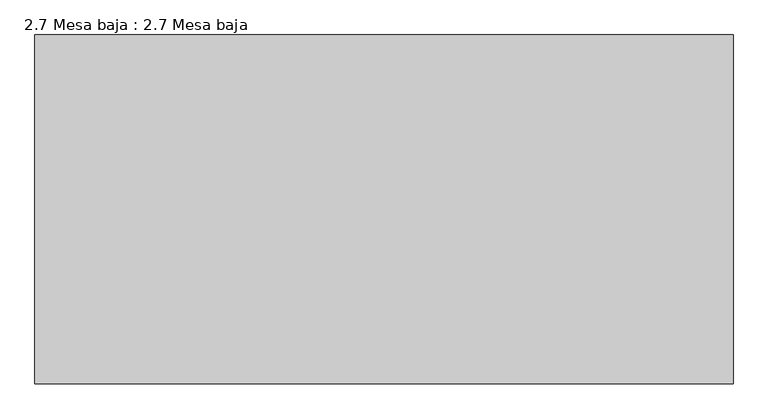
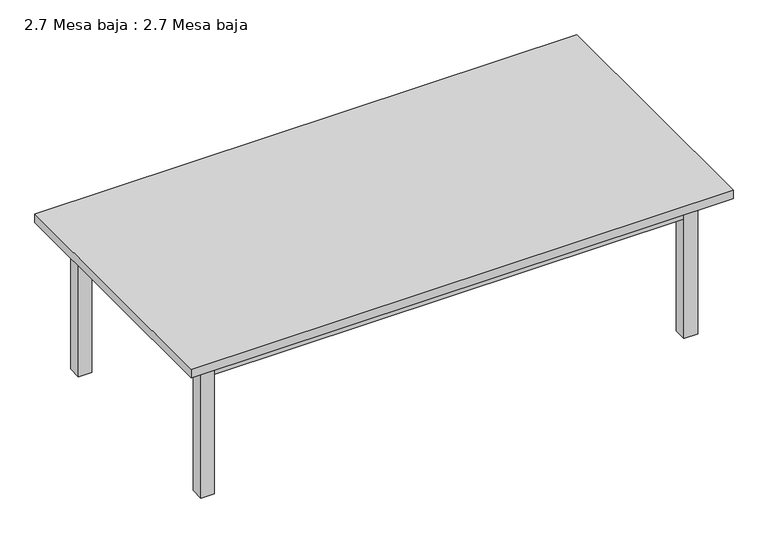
"""IFC4 building model written with IfcOpenShell, lengths in millimetres: furniture geometry, 2.7 Mesa baja : 2.7 Mesa baja."""

from ifc_helpers import new_model, si_unit, frame, origin, origin_with_axes, place, context, project, spatial, polyline, outline, extrude, source, transform, mapped, element, save


def furniture_2_7_mesa_baja_2_7_mesa_baja_48d4bc2e(model_context):
    return source(origin(), model_context, "Body", "SweptSolid", [
        extrude(outline(polyline([(-549.9923604, 219.9966875), (-549.9923604, 250.0259843), (-519.9630635, 250.0259843), (-519.9630635, 219.9966875), (-549.9923604, 219.9966875)])), origin_with_axes(), (0.0, 0.0, 1.0), 330.0000429),
        extrude(outline(polyline([(-549.9923604, -250.0641975), (-549.9923604, -219.9967238), (-519.9478643, -219.9967238), (-519.9478643, -250.0641975), (-549.9923604, -250.0641975)])), origin_with_axes(), (0.0, 0.0, 1.0), 330.0000131),
        extrude(outline(polyline([(519.9630482, 219.9966875), (519.9630482, 250.0259843), (549.9923451, 250.0259843), (549.9923451, 219.9966875), (519.9630482, 219.9966875)])), origin_with_axes(), (0.0, 0.0, 1.0), 330.0000429),
        extrude(outline(polyline([(519.9630482, -250.0641975), (519.9630482, -219.9967238), (550.0075442, -219.9967238), (550.0075442, -250.0641975), (519.9630482, -250.0641975)])), origin_with_axes(), (0.0, 0.0, 1.0), 330.0000131),
        extrude(outline(polyline([(600.0076754, 300.0182178), (600.0076754, -299.981806), (-599.9923723, -299.981806), (-599.9923723, 300.0182178), (600.0076754, 300.0182178)])), frame((0.0, 0.0, 330.0000131), z_axis=(0.0, 0.0, 1.0), x_axis=(1.0, 0.0, 0.0)), (0.0, 0.0, 1.0), 20.0000107),
        extrude(outline(polyline([(-519.9630635, 219.9966875), (-519.9630635, 250.0259843), (519.9630482, 250.0259843), (519.9630482, 219.9966875), (-519.9630635, 219.9966875)])), frame((0.0, 0.0, 280.0000429), z_axis=(0.0, 0.0, 1.0), x_axis=(1.0, 0.0, 0.0)), (0.0, 0.0, 1.0), 50.0),
        extrude(outline(polyline([(-519.9630635, -250.0642273), (-519.9630635, -220.0349304), (519.9630482, -220.0349304), (519.9630482, -250.0642273), (-519.9630635, -250.0642273)])), frame((0.0, 0.0, 280.0000429), z_axis=(0.0, 0.0, 1.0), x_axis=(1.0, 0.0, 0.0)), (0.0, 0.0, 1.0), 50.0),
        extrude(outline(polyline([(-549.9923604, -219.9967238), (-549.9923604, 219.9966875), (-519.9630635, 219.9966875), (-519.9630635, -219.9967238), (-549.9923604, -219.9967238)])), frame((0.0, 0.0, 280.0000429), z_axis=(0.0, 0.0, 1.0), x_axis=(1.0, 0.0, 0.0)), (0.0, 0.0, 1.0), 49.9999702),
        extrude(outline(polyline([(550.0075442, 219.9966875), (550.0075442, -219.9967238), (519.9630482, -219.9967238), (519.9630482, 219.9966875), (550.0075442, 219.9966875)])), frame((0.0, 0.0, 280.0000429), z_axis=(0.0, 0.0, 1.0), x_axis=(1.0, 0.0, 0.0)), (0.0, 0.0, 1.0), 49.9999702),
    ])


if __name__ == "__main__":
    model = new_model("IFC4")
    model_context = context("Model", 3, world=origin())
    ifc_project = project(units=[si_unit("LENGTHUNIT", "METRE", prefix="MILLI")], contexts=[model_context])
    site = spatial("IfcSite", under=ifc_project)
    building = spatial("IfcBuilding", under=site)
    placement = place(None, origin())
    furniture_2_7_mesa_baja_2_7_mesa_baja_shape = furniture_2_7_mesa_baja_2_7_mesa_baja_48d4bc2e(model_context)
    element("IfcFurniture", 1, ObjectType="2.7 Mesa baja : 2.7 Mesa baja", at=placement, inside=building, context=model_context, shape_type="MappedRepresentation", body=[
        mapped(furniture_2_7_mesa_baja_2_7_mesa_baja_shape, transform((0.0, 0.0, 0.0), x_axis=(1.0, 0.0, 0.0), y_axis=(0.0, 1.0, 0.0), z_axis=(0.0, 0.0, 1.0))),
    ])
    save(model, "model.ifc")
